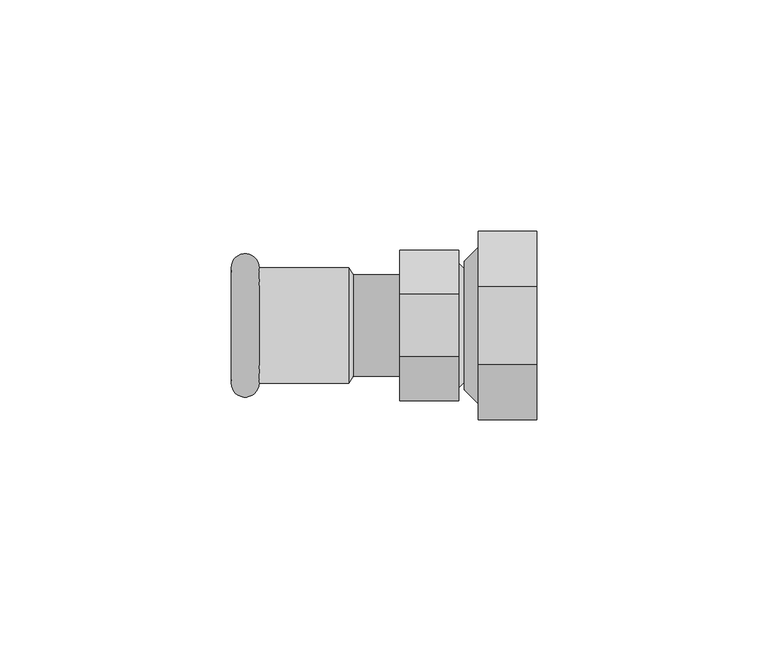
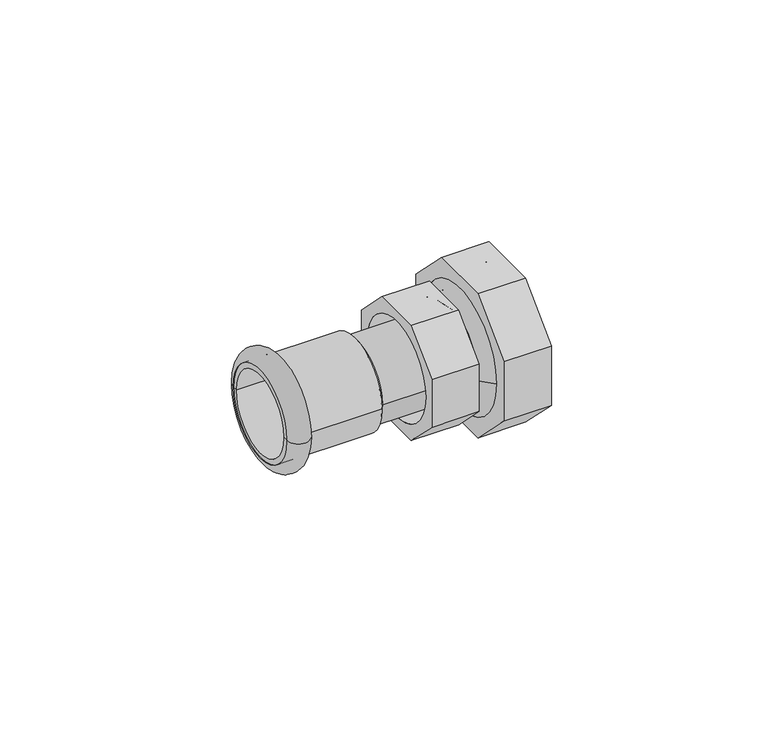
"""IFC4 building model written with IfcOpenShell, lengths in millimetres: pipe fitting geometry."""

import ifcopenshell
import ifcopenshell.guid

model = None  # the IFC model being written
_history = None  # IfcOwnerHistory: only IFC2X3 demands one
_inside = {}  # id of a spatial element -> (the spatial element, [elements in it])
_under = {}  # id of a project, library or spatial element -> (it, [spatial elements below it])
_declared = {}  # id of a project -> (the project, [libraries it declares])
_typed = {}  # id of a type object -> (the type object, [elements of that type])
_made_of = {}  # id of a material, layer set ... -> (it, [elements and type objects made of it])


def new_model(schema):
    """Start an empty IFC model of exactly this schema.

    Asked for "IFC4X3", IfcOpenShell would pick the latest addendum, in which some entities
    have other attributes; the version numbers below select the first issue.
    IFC2X3 requires an IfcOwnerHistory on every rooted entity: one is made here for all.
    """
    global model, _history
    if schema == "IFC4X3":
        model = ifcopenshell.file(schema_version=(4, 3, 0, 0))
    else:
        model = ifcopenshell.file(schema=schema)
    _inside.clear()
    _under.clear()
    _declared.clear()
    _typed.clear()
    _made_of.clear()
    _history = None
    if model.schema == "IFC2X3":
        org = make("IfcOrganization", Name="unknown")
        user = make(
            "IfcPersonAndOrganization",
            ThePerson=make("IfcPerson", FamilyName="unknown"),
            TheOrganization=org,
        )
        app = make(
            "IfcApplication",
            ApplicationDeveloper=org,
            Version="unknown",
            ApplicationFullName="unknown",
            ApplicationIdentifier="unknown",
        )
        _history = make(
            "IfcOwnerHistory",
            OwningUser=user,
            OwningApplication=app,
            ChangeAction="ADDED",
            CreationDate=0,
        )
    return model


def make(cls, **values):
    """One entity of the class cls with the attributes given. An attribute that is None is left unset."""
    return model.create_entity(
        cls, **{name: value for name, value in values.items() if value is not None}
    )


def rooted(cls, **values):
    """An entity with a GlobalId (a new one), such as an element, a storey or a relation."""
    return make(cls, GlobalId=ifcopenshell.guid.new(), OwnerHistory=_history, **values)


def si_unit(unit_type, name, prefix=None):
    """IfcSIUnit, for example si_unit("LENGTHUNIT", "METRE", prefix="MILLI")."""
    return make("IfcSIUnit", UnitType=unit_type, Prefix=prefix, Name=name)


def assignment(units):
    """IfcUnitAssignment: the units of a project."""
    return None if units is None else make("IfcUnitAssignment", Units=units)


def point(xyz):
    """IfcCartesianPoint."""
    return None if xyz is None else make("IfcCartesianPoint", Coordinates=xyz)


def direction(xyz):
    """IfcDirection."""
    return None if xyz is None else make("IfcDirection", DirectionRatios=xyz)


def frame(location, z_axis=None, x_axis=None):
    """IfcAxis2Placement3D, a coordinate frame: its origin and axes. An axis left out is left unset."""
    return make(
        "IfcAxis2Placement3D",
        Location=point(location),
        Axis=direction(z_axis),
        RefDirection=direction(x_axis),
    )


def frame_2d(location, x_axis=None):
    """IfcAxis2Placement2D, a coordinate frame in the plane: its origin and x axis."""
    return make(
        "IfcAxis2Placement2D", Location=point(location), RefDirection=direction(x_axis)
    )


def origin():
    """The frame at (0, 0, 0) with its axes left unset."""
    return frame((0.0, 0.0, 0.0))


def origin_2d():
    """The frame at (0, 0) in the plane with its x axis left unset."""
    return frame_2d((0.0, 0.0))


def place(relative_to, where):
    """IfcLocalPlacement: puts the frame where relative to a parent placement (None: the world)."""
    return make(
        "IfcLocalPlacement", PlacementRelTo=relative_to, RelativePlacement=where
    )


def context(
    kind, dimensions, precision=None, world=None, true_north=None, identifier=None
):
    """IfcGeometricRepresentationContext, for example the 3D "Model" context."""
    return make(
        "IfcGeometricRepresentationContext",
        ContextIdentifier=identifier,
        ContextType=kind,
        CoordinateSpaceDimension=dimensions,
        Precision=precision,
        WorldCoordinateSystem=world,
        TrueNorth=true_north,
    )


def project(units=None, contexts=None):
    """IfcProject with its units and contexts."""
    return rooted(
        "IfcProject",
        Name="project",
        RepresentationContexts=contexts,
        UnitsInContext=assignment(units),
    )


def spatial(cls, under=None, at=None, **own):
    """A site, building, storey or space (cls), placed at a placement, below another one or the project."""
    s = rooted(cls, ObjectPlacement=at, **own)
    if under is not None:
        _under.setdefault(under.id(), (under, []))[1].append(s)
    return s


def polyline(points):
    """IfcPolyline through the points."""
    return make("IfcPolyline", Points=[point(p) for p in points])


def circle_curve(where, radius):
    """IfcCircle in the frame where."""
    return make("IfcCircle", Position=where, Radius=radius)


def ellipse_curve(where, semi_axis1, semi_axis2):
    """IfcEllipse in the frame where."""
    return make(
        "IfcEllipse", Position=where, SemiAxis1=semi_axis1, SemiAxis2=semi_axis2
    )


def trimmed(basis, trim1, trim2, sense, master):
    """IfcTrimmedCurve: the piece of a basis curve between two trims."""
    return make(
        "IfcTrimmedCurve",
        BasisCurve=basis,
        Trim1=trim1,
        Trim2=trim2,
        SenseAgreement=sense,
        MasterRepresentation=master,
    )


def segment(curve, same_sense, transition):
    """IfcCompositeCurveSegment."""
    return make(
        "IfcCompositeCurveSegment",
        Transition=transition,
        SameSense=same_sense,
        ParentCurve=curve,
    )


def composite_curve(segments, self_intersect=None):
    """IfcCompositeCurve: segments joined end to end."""
    return make("IfcCompositeCurve", Segments=segments, SelfIntersect=self_intersect)


def outline(outer, holes=None, kind="AREA"):
    """IfcArbitraryClosedProfileDef: a profile drawn as a closed curve; with holes, ...WithVoids."""
    if holes is None:
        return make("IfcArbitraryClosedProfileDef", ProfileType=kind, OuterCurve=outer)
    return make(
        "IfcArbitraryProfileDefWithVoids",
        ProfileType=kind,
        OuterCurve=outer,
        InnerCurves=holes,
    )


def extrude(swept, where, along, depth):
    """IfcExtrudedAreaSolid: the profile swept, set in the frame where, extruded along a direction by depth."""
    return make(
        "IfcExtrudedAreaSolid",
        SweptArea=swept,
        Position=where,
        ExtrudedDirection=direction(along),
        Depth=depth,
    )


def shape(context_of_items, identifier, shape_type, items):
    """IfcShapeRepresentation: the items that make up one representation, for example the "Body"."""
    return make(
        "IfcShapeRepresentation",
        ContextOfItems=context_of_items,
        RepresentationIdentifier=identifier,
        RepresentationType=shape_type,
        Items=items,
    )


def source(mapping_origin, context_of_items, identifier, shape_type, items):
    """IfcRepresentationMap: a shape defined once, which mapped items show again and again."""
    return make(
        "IfcRepresentationMap",
        MappingOrigin=mapping_origin,
        MappedRepresentation=shape(context_of_items, identifier, shape_type, items),
    )


def transform(
    local_origin,
    x_axis=None,
    y_axis=None,
    z_axis=None,
    scale=None,
    scale2=None,
    scale3=None,
    uniform=True,
):
    """IfcCartesianTransformationOperator3D, or its non-uniform kind. x_axis, y_axis, z_axis: its Axis1, 2, 3."""
    if uniform:
        return make(
            "IfcCartesianTransformationOperator3D",
            Axis1=direction(x_axis),
            Axis2=direction(y_axis),
            LocalOrigin=point(local_origin),
            Scale=scale,
            Axis3=direction(z_axis),
        )
    return make(
        "IfcCartesianTransformationOperator3DnonUniform",
        Axis1=direction(x_axis),
        Axis2=direction(y_axis),
        LocalOrigin=point(local_origin),
        Scale=scale,
        Axis3=direction(z_axis),
        Scale2=scale2,
        Scale3=scale3,
    )


def mapped(mapping_source, mapping_target):
    """IfcMappedItem: shows the shape of a source again, moved by a transform."""
    return make(
        "IfcMappedItem", MappingSource=mapping_source, MappingTarget=mapping_target
    )


def made_of(thing, what):
    """Note that an element or type object is made of a material, layer set ...; save() writes the relation."""
    if what is not None:
        _made_of.setdefault(what.id(), (what, []))[1].append(thing)
    return thing


def element(
    cls,
    number,
    at=None,
    inside=None,
    cuts=None,
    type_object=None,
    material=None,
    context=None,
    identifier="Body",
    shape_type=None,
    held_by="IfcProductDefinitionShape",
    body=None,
    shapes=None,
    **own,
):
    """One element of the class cls, such as IfcWall. Its Tag is "e" and its number.

    at: its placement. inside: the storey or other place that contains it. cuts: it is an
    opening in that element (IfcRelVoidsElement). A single representation is given by context,
    identifier, shape_type and body (its items); several are given by shapes. held_by: the class
    of the entity that holds the representations. save() writes the other relations.
    """
    e = rooted(cls, Tag="e%d" % number, ObjectPlacement=at, **own)
    if body is not None:
        shapes = [shape(context, identifier, shape_type, body)]
    if shapes is not None:
        e.Representation = make(held_by, Representations=shapes)
    if inside is not None:
        _inside.setdefault(inside.id(), (inside, []))[1].append(e)
    if cuts is not None:
        rooted(
            "IfcRelVoidsElement", RelatingBuildingElement=cuts, RelatedOpeningElement=e
        )
    if type_object is not None:
        _typed.setdefault(type_object.id(), (type_object, []))[1].append(e)
    return made_of(e, material)


def aggregate(whole, parts):
    """IfcRelAggregates: a whole, such as a stair, and the parts it consists of."""
    return rooted("IfcRelAggregates", RelatingObject=whole, RelatedObjects=parts)


def save(model, path):
    """Write the relations noted so far, then the file.

    IfcRelAggregates (storeys below a building ...), IfcRelContainedInSpatialStructure (elements
    in a storey), IfcRelDefinesByType, IfcRelAssociatesMaterial and IfcRelDeclares: one each for
    every whole, place, type object, material and project.
    """
    for whole, parts in _under.values():
        aggregate(whole, parts)
    for where, things in _inside.values():
        rooted(
            "IfcRelContainedInSpatialStructure",
            RelatedElements=things,
            RelatingStructure=where,
        )
    for kind, things in _typed.values():
        rooted("IfcRelDefinesByType", RelatedObjects=things, RelatingType=kind)
    for what, things in _made_of.values():
        rooted("IfcRelAssociatesMaterial", RelatedObjects=things, RelatingMaterial=what)
    for by, libraries in _declared.values():
        rooted("IfcRelDeclares", RelatingContext=by, RelatedDefinitions=libraries)
    model.write(path)


def plane_surface(at):
    """IfcPlane: the flat surface through the origin of the frame at, square to its z axis."""
    return make("IfcPlane", Position=at)


def cylinder_surface(at, radius):
    """IfcCylindricalSurface: all points at the distance radius from the z axis of the frame at."""
    return make("IfcCylindricalSurface", Position=at, Radius=radius)


def revolved_surface(curve, axis_point, axis_direction):
    """IfcSurfaceOfRevolution: the curve turned about the line through axis_point along axis_direction."""
    return make(
        "IfcSurfaceOfRevolution",
        SweptCurve=make("IfcArbitraryOpenProfileDef", ProfileType="CURVE", Curve=curve),
        AxisPosition=make("IfcAxis1Placement", Location=point(axis_point), Axis=direction(axis_direction)),
    )


def advanced_brep(points, edges, surfaces, faces):
    """IfcAdvancedBrep: a solid bounded by faces that lie on surfaces and meet in shared edges.

    An edge is (start, end): straight between two places in points (the first is 0);
    or (start, end, curve); or (start, end, curve, False) where it runs against its curve.
    A face is (place in surfaces, loops), or (place, loops, False) where it looks against
    its surface's normal. A loop lists edges by number (the first is 1), with a minus sign
    where the edge is run from its end to its start. The first loop is the outer one.
    """
    corners = [point(p) for p in points]
    vertices = [make("IfcVertexPoint", VertexGeometry=c) for c in corners]
    made = []
    for start, end, *more in edges:
        made.append(
            make(
                "IfcEdgeCurve",
                EdgeStart=vertices[start],
                EdgeEnd=vertices[end],
                EdgeGeometry=more[0] if more else make("IfcPolyline", Points=[corners[start], corners[end]]),
                SameSense=more[1] if len(more) > 1 else True,
            )
        )
    hull = []
    for where, loops, *sense in faces:
        bounds = []
        for j, loop in enumerate(loops):
            ring = [make("IfcOrientedEdge", EdgeElement=made[abs(k) - 1], Orientation=k > 0) for k in loop]
            bounds.append(
                make(
                    "IfcFaceOuterBound" if j == 0 else "IfcFaceBound",
                    Bound=make("IfcEdgeLoop", EdgeList=ring),
                    Orientation=True,
                )
            )
        hull.append(make("IfcAdvancedFace", Bounds=bounds, FaceSurface=surfaces[where], SameSense=sense[0] if sense else True))
    return make("IfcAdvancedBrep", Outer=make("IfcClosedShell", CfsFaces=hull))


def pipe_fitting_7915c5a4(model_context):
    return source(origin(), model_context, "Body", "SolidModel", [
        advanced_brep(
        [(1.7777778, -16.2355862, 6.725), (1.7777778, -6.725, 16.2355862), (1.7777778, 6.725, 16.2355862), (1.7777778, 16.2355862, 6.725), (1.7777778, 16.2355862, -6.725), (1.7777778, 6.725, -16.2355862), (1.7777778, -6.725, -16.2355862), (1.7777778, -16.2355862, -6.725), (1.7777778, 13.45, 0.0), (1.7777778, -13.45, 0.0), (14.4444444, -16.2355862, 6.725), (14.4444444, -16.2355862, -6.725), (14.4444444, -6.725, -16.2355862), (14.4444444, 6.725, -16.2355862), (14.4444444, 16.2355862, -6.725), (14.4444444, 16.2355862, 6.725), (14.4444444, 6.725, 16.2355862), (14.4444444, -6.725, 16.2355862), (14.4444444, 13.4788231, 0.0), (14.4444444, -13.4788231, 0.0), (14.4444444, 13.45, 0.0), (14.4444444, -13.45, 0.0), (14.4444444, 10.4788231, 0.0), (14.4444444, -10.4788231, 0.0), (17.4444444, 10.4788231, 0.0), (17.4444444, -10.4788231, 0.0)],
        [
            (0, 1),
            (1, 2),
            (2, 3),
            (3, 4),
            (4, 5),
            (5, 6),
            (6, 7),
            (7, 0),
            (8, 9, circle_curve(frame((1.7777778, 0.0, 0.0), z_axis=(1.0, 0.0, 0.0), x_axis=(0.0, -1.0, 0.0)), 13.45)),
            (9, 8, circle_curve(frame((1.7777778, 0.0, 0.0), z_axis=(1.0, 0.0, 0.0), x_axis=(0.0, -1.0, 0.0)), 13.45)),
            (10, 11),
            (11, 12),
            (12, 13),
            (13, 14),
            (14, 15),
            (15, 16),
            (16, 17),
            (17, 10),
            (18, 19, circle_curve(frame((14.4444444, 0.0, 0.0), z_axis=(-1.0, 0.0, 0.0), x_axis=(0.0, -1.0, 0.0)), 13.4788231)),
            (19, 18, circle_curve(frame((14.4444444, 0.0, 0.0), z_axis=(-1.0, 0.0, 0.0), x_axis=(0.0, 1.0, 0.0)), 13.4788231)),
            (8, 20),
            (20, 21, circle_curve(frame((14.4444444, 0.0, 0.0), z_axis=(1.0, 0.0, 0.0), x_axis=(0.0, -1.0, 0.0)), 13.45)),
            (21, 9),
            (21, 20, circle_curve(frame((14.4444444, 0.0, 0.0), z_axis=(1.0, 0.0, 0.0), x_axis=(0.0, -1.0, 0.0)), 13.45)),
            (0, 10),
            (17, 1),
            (16, 2),
            (15, 3),
            (14, 4),
            (13, 5),
            (12, 6),
            (11, 7),
            (22, 23, circle_curve(frame((14.4444444, 0.0, 0.0), z_axis=(1.0, 0.0, 0.0), x_axis=(0.0, 1.0, 0.0)), 10.4788231)),
            (23, 22, circle_curve(frame((14.4444444, 0.0, 0.0), z_axis=(1.0, 0.0, 0.0), x_axis=(0.0, -1.0, 0.0)), 10.4788231)),
            (24, 25, circle_curve(frame((17.4444444, 0.0, 0.0), z_axis=(-1.0, 0.0, 0.0), x_axis=(0.0, -1.0, 0.0)), 10.4788231)),
            (25, 19),
            (18, 24),
            (23, 25),
            (24, 22),
            (25, 24, circle_curve(frame((17.4444444, 0.0, 0.0), z_axis=(-1.0, 0.0, 0.0), x_axis=(0.0, 1.0, 0.0)), 10.4788231)),
        ],
        [
            plane_surface(frame((1.7777778, -13.45, 0.0), z_axis=(-1.0, 0.0, 0.0), x_axis=(0.0, 0.0, -1.0))),
            plane_surface(frame((14.4444444, -13.45, 0.0), z_axis=(1.0, 0.0, 0.0), x_axis=(0.0, 0.0, 1.0))),
            revolved_surface(polyline([(14.4444444, -13.45, 0.0), (1.7777778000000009, -13.45, 0.0)]), (14.4444444, 0.0, 0.0), (1.0, 0.0, 0.0)),
            plane_surface(frame((1.7777778, -16.2355862, 6.725), z_axis=(0.0, -0.7071067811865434, 0.7071067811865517), x_axis=(1.0, 0.0, 0.0))),
            plane_surface(frame((1.7777778, -6.725, 16.2355862), z_axis=(0.0, 0.0, 1.0), x_axis=(1.0, 0.0, 0.0))),
            plane_surface(frame((1.7777778, 6.725, 16.2355862), z_axis=(0.0, 0.7071067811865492, 0.7071067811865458), x_axis=(1.0, 0.0, 0.0))),
            plane_surface(frame((1.7777778, 16.2355862, 6.725), z_axis=(0.0, 1.0, 0.0), x_axis=(1.0, 0.0, 0.0))),
            plane_surface(frame((1.7777778, 16.2355862, -6.725), z_axis=(0.0, 0.7071067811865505, -0.7071067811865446), x_axis=(1.0, 0.0, 0.0))),
            plane_surface(frame((1.7777778, 6.725, -16.2355862), z_axis=(0.0, 0.0, -1.0), x_axis=(1.0, 0.0, 0.0))),
            plane_surface(frame((1.7777778, -6.725, -16.2355862), z_axis=(0.0, -0.7071067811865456, -0.7071067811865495), x_axis=(1.0, 0.0, 0.0))),
            plane_surface(frame((1.7777778, -16.2355862, -6.725), z_axis=(0.0, -1.0, 0.0), x_axis=(1.0, 0.0, 0.0))),
            plane_surface(frame((14.4444444, 0.0, 0.0), z_axis=(-1.0, 0.0, 0.0), x_axis=(0.0, 1.0, 0.0))),
            revolved_surface(polyline([(14.4444444, -13.4788231, 0.0), (17.4444444, -10.4788231, 0.0)]), (14.4444444, 0.0, 0.0), (1.0, 0.0, 0.0)),
            revolved_surface(polyline([(17.4444444, -10.4788231, 0.0), (14.4444444, -10.4788231, 0.0)]), (14.4444444, 0.0, 0.0), (1.0, 0.0, 0.0)),
            revolved_surface(polyline([(14.4444444, 13.4788231, 0.0), (17.4444444, 10.4788231, 0.0)]), (14.4444444, 0.0, 0.0), (1.0, 0.0, 0.0)),
            revolved_surface(polyline([(17.4444444, 10.4788231, 0.0), (14.4444444, 10.4788231, 0.0)]), (14.4444444, 0.0, 0.0), (1.0, 0.0, 0.0)),
        ],
        [
            (0, [[1, 2, 3, 4, 5, 6, 7, 8], [9, 10]]),
            (1, [[11, 12, 13, 14, 15, 16, 17, 18], [19, 20]]),
            (2, [[-9, 21, 22, 23]]),
            (2, [[-10, -23, 24, -21]]),
            (3, [[-1, 25, -18, 26]]),
            (4, [[-2, -26, -17, 27]]),
            (5, [[-3, -27, -16, 28]]),
            (6, [[-4, -28, -15, 29]]),
            (7, [[-5, -29, -14, 30]]),
            (8, [[-6, -30, -13, 31]]),
            (9, [[-7, -31, -12, 32]]),
            (10, [[-8, -32, -11, -25]]),
            (11, [[-22, -24], [33, 34]]),
            (12, [[35, 36, -19, 37]]),
            (13, [[-34, 38, -35, 39]]),
            (14, [[-36, 40, -37, -20]]),
            (15, [[-33, -39, -40, -38]]),
        ],
    ),
        advanced_brep(
        [(31.3333333, 20.3397493, 8.425), (31.3333333, 8.425, 20.3397493), (31.3333333, -8.425, 20.3397493), (31.3333333, -20.3397493, 8.425), (31.3333333, -20.3397493, -8.425), (31.3333333, -8.425, -20.3397493), (31.3333333, 8.425, -20.3397493), (31.3333333, 20.3397493, -8.425), (31.3333333, -16.85, 0.0), (31.3333333, 16.85, 0.0), (18.6666667, 20.3397493, 8.425), (18.6666667, 20.3397493, -8.425), (18.6666667, 8.425, -20.3397493), (18.6666667, -8.425, -20.3397493), (18.6666667, -20.3397493, -8.425), (18.6666667, -20.3397493, 8.425), (18.6666667, -8.425, 20.3397493), (18.6666667, 8.425, 20.3397493), (18.6666667, -16.8788231, 0.0), (18.6666667, 16.8788231, 0.0), (18.6666667, -16.85, 0.0), (18.6666667, 16.85, 0.0), (18.6666667, -13.8788231, 0.0), (18.6666667, 13.8788231, 0.0), (15.6666667, -13.8788231, 0.0), (15.6666667, 13.8788231, 0.0)],
        [
            (0, 1),
            (1, 2),
            (2, 3),
            (3, 4),
            (4, 5),
            (5, 6),
            (6, 7),
            (7, 0),
            (8, 9, circle_curve(frame((31.3333333, 0.0, 0.0), z_axis=(-1.0, 0.0, 0.0), x_axis=(0.0, 1.0, 0.0)), 16.85)),
            (9, 8, circle_curve(frame((31.3333333, 0.0, 0.0), z_axis=(-1.0, 0.0, 0.0), x_axis=(0.0, 1.0, 0.0)), 16.85)),
            (10, 11),
            (11, 12),
            (12, 13),
            (13, 14),
            (14, 15),
            (15, 16),
            (16, 17),
            (17, 10),
            (18, 19, circle_curve(frame((18.6666667, 0.0, 0.0), z_axis=(1.0, 0.0, 0.0), x_axis=(0.0, 1.0, 0.0)), 16.8788231)),
            (19, 18, circle_curve(frame((18.6666667, 0.0, 0.0), z_axis=(1.0, 0.0, 0.0), x_axis=(0.0, -1.0, 0.0)), 16.8788231)),
            (8, 20),
            (20, 21, circle_curve(frame((18.6666667, 0.0, 0.0), z_axis=(-1.0, 0.0, 0.0), x_axis=(0.0, 1.0, 0.0)), 16.85)),
            (21, 9),
            (21, 20, circle_curve(frame((18.6666667, 0.0, 0.0), z_axis=(-1.0, 0.0, 0.0), x_axis=(0.0, 1.0, 0.0)), 16.85)),
            (0, 10),
            (17, 1),
            (16, 2),
            (15, 3),
            (14, 4),
            (13, 5),
            (12, 6),
            (11, 7),
            (22, 23, circle_curve(frame((18.6666667, 0.0, 0.0), z_axis=(-1.0, 0.0, 0.0), x_axis=(0.0, -1.0, 0.0)), 13.8788231)),
            (23, 22, circle_curve(frame((18.6666667, 0.0, 0.0), z_axis=(-1.0, 0.0, 0.0), x_axis=(0.0, 1.0, 0.0)), 13.8788231)),
            (24, 25, circle_curve(frame((15.6666667, 0.0, 0.0), z_axis=(1.0, 0.0, 0.0), x_axis=(0.0, 1.0, 0.0)), 13.8788231)),
            (25, 19),
            (18, 24),
            (23, 25),
            (24, 22),
            (25, 24, circle_curve(frame((15.6666667, 0.0, 0.0), z_axis=(1.0, 0.0, 0.0), x_axis=(0.0, -1.0, 0.0)), 13.8788231)),
        ],
        [
            plane_surface(frame((31.3333333, 16.85, 0.0), z_axis=(1.0, 0.0, 0.0), x_axis=(0.0, 0.0, -1.0))),
            plane_surface(frame((18.6666667, 16.85, 0.0), z_axis=(-1.0, 0.0, 0.0), x_axis=(0.0, 0.0, 1.0))),
            revolved_surface(polyline([(18.6666667, 16.85, 0.0), (31.3333333, 16.85, 0.0)]), (18.6666667, 0.0, 0.0), (-1.0, 0.0, 0.0)),
            plane_surface(frame((31.3333333, 20.3397493, 8.425), z_axis=(0.0, 0.7071067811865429, 0.7071067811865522), x_axis=(-1.0, 0.0, 0.0))),
            plane_surface(frame((31.3333333, 8.425, 20.3397493), z_axis=(0.0, 0.0, 1.0), x_axis=(-1.0, 0.0, 0.0))),
            plane_surface(frame((31.3333333, -8.425, 20.3397493), z_axis=(0.0, -0.7071067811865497, 0.7071067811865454), x_axis=(-1.0, 0.0, 0.0))),
            plane_surface(frame((31.3333333, -20.3397493, 8.425), z_axis=(0.0, -1.0, 0.0), x_axis=(-1.0, 0.0, 0.0))),
            plane_surface(frame((31.3333333, -20.3397493, -8.425), z_axis=(0.0, -0.7071067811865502, -0.7071067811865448), x_axis=(-1.0, 0.0, 0.0))),
            plane_surface(frame((31.3333333, -8.425, -20.3397493), z_axis=(0.0, 0.0, -1.0), x_axis=(-1.0, 0.0, 0.0))),
            plane_surface(frame((31.3333333, 8.425, -20.3397493), z_axis=(0.0, 0.7071067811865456, -0.7071067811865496), x_axis=(-1.0, 0.0, 0.0))),
            plane_surface(frame((31.3333333, 20.3397493, -8.425), z_axis=(0.0, 1.0, 0.0), x_axis=(-1.0, 0.0, 0.0))),
            plane_surface(frame((18.6666667, 0.0, 0.0), z_axis=(1.0, 0.0, 0.0), x_axis=(0.0, -1.0, 0.0))),
            revolved_surface(polyline([(18.6666667, 16.8788231, 0.0), (15.6666667, 13.8788231, 0.0)]), (18.6666667, 0.0, 0.0), (-1.0, 0.0, 0.0)),
            revolved_surface(polyline([(15.6666667, 13.8788231, 0.0), (18.6666667, 13.8788231, 0.0)]), (18.6666667, 0.0, 0.0), (-1.0, 0.0, 0.0)),
            revolved_surface(polyline([(18.6666667, -16.8788231, 0.0), (15.6666667, -13.8788231, 0.0)]), (18.6666667, 0.0, 0.0), (-1.0, 0.0, 0.0)),
            revolved_surface(polyline([(15.6666667, -13.8788231, 0.0), (18.6666667, -13.8788231, 0.0)]), (18.6666667, 0.0, 0.0), (-1.0, 0.0, 0.0)),
        ],
        [
            (0, [[1, 2, 3, 4, 5, 6, 7, 8], [9, 10]]),
            (1, [[11, 12, 13, 14, 15, 16, 17, 18], [19, 20]]),
            (2, [[-9, 21, 22, 23]]),
            (2, [[-10, -23, 24, -21]]),
            (3, [[-1, 25, -18, 26]]),
            (4, [[-2, -26, -17, 27]]),
            (5, [[-3, -27, -16, 28]]),
            (6, [[-4, -28, -15, 29]]),
            (7, [[-5, -29, -14, 30]]),
            (8, [[-6, -30, -13, 31]]),
            (9, [[-7, -31, -12, 32]]),
            (10, [[-8, -32, -11, -25]]),
            (11, [[-22, -24], [33, 34]]),
            (12, [[35, 36, -19, 37]]),
            (13, [[-34, 38, -35, 39]]),
            (14, [[-36, 40, -37, -20]]),
            (15, [[-33, -39, -40, -38]]),
        ],
    ),
        advanced_brep(
        [(-34.6666667, 12.5, 0.0), (-34.6666667, -12.5, 0.0), (-28.665374, -12.5, 0.0), (-28.665374, 12.5, 0.0)],
        [
            (0, 1, circle_curve(frame((-34.6666667, 0.0, 0.0), z_axis=(-1.0, 0.0, 0.0), x_axis=(0.0, -1.0, 0.0)), 12.5)),
            (1, 2),
            (2, 3, circle_curve(frame((-28.665374, 0.0, 0.0), z_axis=(1.0, 0.0, 0.0), x_axis=(0.0, -1.0, 0.0)), 12.5)),
            (3, 0),
            (1, 0, circle_curve(frame((-34.6666667, 0.0, 0.0), z_axis=(-1.0, 0.0, 0.0), x_axis=(0.0, -1.0, 0.0)), 12.5)),
            (3, 2, circle_curve(frame((-28.665374, 0.0, 0.0), z_axis=(1.0, 0.0, 0.0), x_axis=(0.0, -1.0, 0.0)), 12.5)),
            (2, 1, circle_curve(frame((-31.6660203, -12.5, 0.0), z_axis=(0.0, 0.0, -1.0), x_axis=(-1.0, 0.0, 0.0)), 3.0006464)),
            (0, 3, circle_curve(frame((-31.6660203, 12.5, 0.0), z_axis=(0.0, 0.0, -1.0), x_axis=(-1.0, 0.0, 0.0)), 3.0006464)),
        ],
        [
            revolved_surface(polyline([(-28.665374, -12.5, 0.0), (-34.6666667, -12.5, 0.0)]), (-9.3333333, 0.0, 0.0), (1.0, 0.0, 0.0)),
            revolved_surface(trimmed(ellipse_curve(frame((-31.6660203, -12.5, 0.0), z_axis=(0.0, 0.0, 1.0), x_axis=(-1.0, 0.0, 0.0)), 3.0006464, 3.0006464), [point((-34.6666667, -12.5, 0.0))], [point((-28.665374, -12.5, 0.0))], True, "CARTESIAN"), (-9.3333333, 0.0, 0.0), (1.0, 0.0, 0.0)),
        ],
        [
            (0, [[1, 2, 3, 4]]),
            (0, [[5, -4, 6, -2]]),
            (1, [[-3, 7, -1, 8]]),
            (1, [[-6, -8, -5, -7]]),
        ],
    ),
        advanced_brep(
        [(-34.6666667, 11.0, 0.0), (-34.6666667, -11.0, 0.0), (-8.3333333, -11.0, 0.0), (-8.3333333, 11.0, 0.0), (-34.6666667, 12.5, 0.0), (-34.6666667, -12.5, 0.0), (-9.3333333, 12.5, 0.0), (-9.3333333, -12.5, 0.0)],
        [
            (0, 1, circle_curve(frame((-34.6666667, 0.0, 0.0), z_axis=(-1.0, 0.0, 0.0), x_axis=(0.0, -1.0, 0.0)), 11.0)),
            (1, 2),
            (2, 3, circle_curve(frame((-8.3333333, 0.0, 0.0), z_axis=(1.0, 0.0, 0.0), x_axis=(0.0, -1.0, 0.0)), 11.0)),
            (3, 0),
            (1, 0, circle_curve(frame((-34.6666667, 0.0, 0.0), z_axis=(-1.0, 0.0, 0.0), x_axis=(0.0, -1.0, 0.0)), 11.0)),
            (3, 2, circle_curve(frame((-8.3333333, 0.0, 0.0), z_axis=(1.0, 0.0, 0.0), x_axis=(0.0, -1.0, 0.0)), 11.0)),
            (4, 5, circle_curve(frame((-34.6666667, 0.0, 0.0), z_axis=(-1.0, 0.0, 0.0), x_axis=(0.0, -1.0, 0.0)), 12.5)),
            (5, 1),
            (0, 4),
            (5, 4, circle_curve(frame((-34.6666667, 0.0, 0.0), z_axis=(-1.0, 0.0, 0.0), x_axis=(0.0, -1.0, 0.0)), 12.5)),
            (6, 7, circle_curve(frame((-9.3333333, 0.0, 0.0), z_axis=(-1.0, 0.0, 0.0), x_axis=(0.0, -1.0, 0.0)), 12.5)),
            (7, 5),
            (4, 6),
            (7, 6, circle_curve(frame((-9.3333333, 0.0, 0.0), z_axis=(-1.0, 0.0, 0.0), x_axis=(0.0, -1.0, 0.0)), 12.5)),
            (2, 7),
            (6, 3),
        ],
        [
            revolved_surface(polyline([(-8.3333333, -11.0, 0.0), (-34.6666667, -11.0, 0.0)]), (-9.3333333, 0.0, 0.0), (1.0, 0.0, 0.0)),
            plane_surface(frame((-34.6666667, 0.0, 0.0), z_axis=(-1.0, 0.0, 0.0), x_axis=(0.0, -1.0, 0.0))),
            cylinder_surface(frame((-9.3333333, 0.0, 0.0), z_axis=(1.0, 0.0, 0.0), x_axis=(0.0, -1.0, 0.0)), 12.5),
            revolved_surface(polyline([(-9.3333333, -12.5, 0.0), (-8.3333333, -11.0, 0.0)]), (-9.3333333, 0.0, 0.0), (1.0, 0.0, 0.0)),
        ],
        [
            (0, [[1, 2, 3, 4]]),
            (0, [[5, -4, 6, -2]]),
            (1, [[7, 8, -1, 9]]),
            (1, [[10, -9, -5, -8]]),
            (2, [[11, 12, -7, 13]]),
            (2, [[14, -13, -10, -12]]),
            (3, [[-3, 15, -11, 16]]),
            (3, [[-6, -16, -14, -15]]),
        ],
    ),
        extrude(outline(composite_curve([segment(trimmed(circle_curve(origin_2d(), 11.0), [point((-11.0, 0.0))], [point((11.0, 0.0))], False, "CARTESIAN"), True, "CONTINUOUS"), segment(trimmed(circle_curve(origin_2d(), 11.0), [point((11.0, 0.0))], [point((-11.0, 0.0))], False, "CARTESIAN"), True, "CONTINUOUS")], self_intersect=False)), frame((-9.3333333, 0.0, 0.0), z_axis=(1.0, 0.0, 0.0), x_axis=(0.0, 1.0, 0.0)), (0.0, 0.0, 1.0), 28.0),
    ])


if __name__ == "__main__":
    model = new_model("IFC4")
    model_context = context("Model", 3, world=origin())
    ifc_project = project(units=[si_unit("LENGTHUNIT", "METRE", prefix="MILLI")], contexts=[model_context])
    site = spatial("IfcSite", under=ifc_project)
    building = spatial("IfcBuilding", under=site)
    placement = place(None, origin())
    pipe_fitting_shape = pipe_fitting_7915c5a4(model_context)
    element("IfcPipeFitting", 1, ObjectType="NLRS_50_PIF_UN_Mapress Therm 3-d koppeling binnendraad_PRO_3208079_geb : DN12-50-Rp2\" / d15-54-Rp2\" - OD", at=placement, inside=building, context=model_context, shape_type="MappedRepresentation", body=[
        mapped(pipe_fitting_shape, transform((0.0, 0.0, 0.0), x_axis=(1.0, 0.0, 0.0), y_axis=(0.0, 1.0, 0.0), z_axis=(0.0, 0.0, 1.0))),
    ])
    save(model, "model.ifc")
